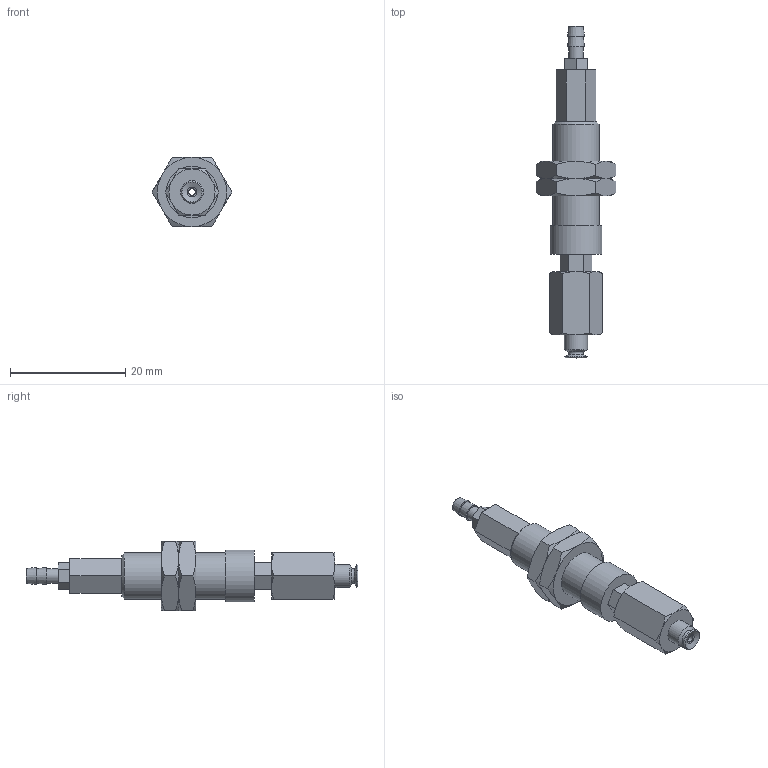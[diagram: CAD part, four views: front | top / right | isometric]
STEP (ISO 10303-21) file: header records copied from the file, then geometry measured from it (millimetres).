
FILE_DESCRIPTION(('STEP AP203'),'1');
FILE_NAME('-T.stp','2025-08-27T02:38:02',(' '),(' '),'Spatial InterOp 3D',' ',' ');
FILE_SCHEMA(('CONFIG_CONTROL_DESIGN'));
Length unit declared in the file: millimetre
Products named in the file (7): BNABPFTH-3.5A-3-※-T; ADAPTER; NAPFTH-2A-3-MBODY; Nut-3.5A-3-h; NAPFTH-3.5A-3-FBODY; BPFG-3.5A-※; T (2)
Assembly tree (7 placements, depth 2):
  BNABPFTH-3.5A-3-※-T
    ADAPTER
    NAPFTH-2A-3-MBODY
    Nut-3.5A-3-h  x2
    NAPFTH-3.5A-3-FBODY
    BPFG-3.5A-※
    T (2)
Bounding box: 13.86 x 57.6 x 12 mm (x, y, z)
Volume: 2696.4 mm3; surface area: 3302.2 mm2
Topology: 7 solids, 7 shells, 139 faces, 295 edges, 180 vertices
Faces by surface type: plane 66, cone 49, cylinder 16, torus 7, bspline 1
Full cylindrical faces by diameter (mm): 1.2 x4, 2 x2, 2.459 x1, 2.5 x1, 3 x3, 4 x1, 7.188 x2, 8 x1, 9 x1
Entity records: 3449 total; most frequent: CARTESIAN_POINT 791, DIRECTION 478, ORIENTED_EDGE 412, EDGE_CURVE 206, AXIS2_PLACEMENT_3D 197, EDGE_LOOP 172, VERTEX_POINT 146, FACE_OUTER_BOUND 139
